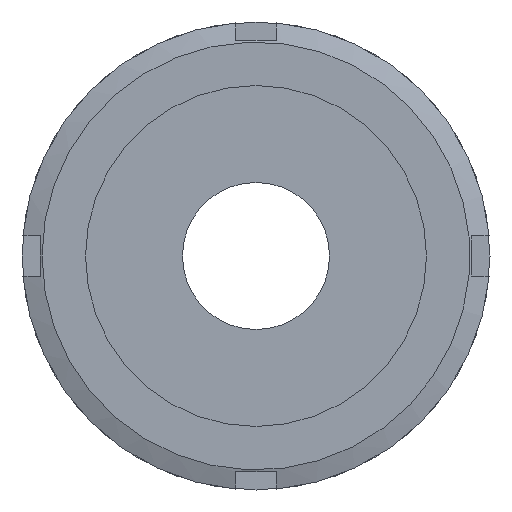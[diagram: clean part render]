
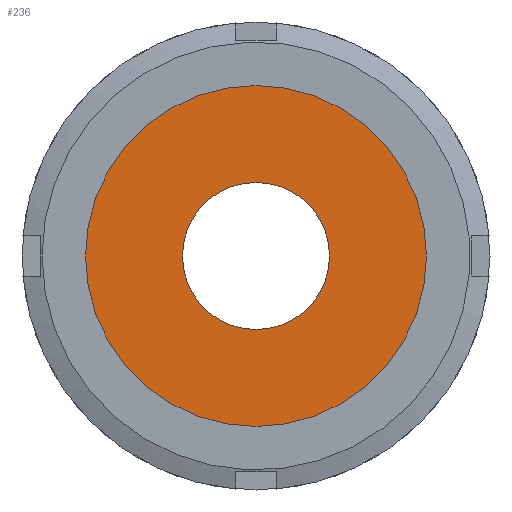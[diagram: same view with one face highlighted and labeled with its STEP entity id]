
A CAD part, left-side view. The second image highlights one B-rep face of the part: STEP entity #236.
In plain terms, the highlighted planar face has unit normal (-1, 0, 0) as drawn and (0, -1, 0) by its records, which use the part's own axes.
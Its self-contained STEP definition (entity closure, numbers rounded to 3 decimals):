
#236 = ADVANCED_FACE( '', ( #342, #343 ), #344, .T. );
#342 = FACE_OUTER_BOUND( '', #497, .T. );
#343 = FACE_BOUND( '', #498, .T. );
#344 = PLANE( '', #499 );
#497 = EDGE_LOOP( '', ( #795 ) );
#498 = EDGE_LOOP( '', ( #796 ) );
#499 = AXIS2_PLACEMENT_3D( '', #797, #798, #799 );
#795 = ORIENTED_EDGE( '', *, *, #1079, .T. );
#796 = ORIENTED_EDGE( '', *, *, #1080, .F. );
#797 = CARTESIAN_POINT( '', ( 11., 0., 0. ) );
#798 = DIRECTION( '', ( 0., -1., 0. ) );
#799 = DIRECTION( '', ( 0., 0., -1. ) );
#1079 = EDGE_CURVE( '', #1252, #1252, #1253, .T. );
#1080 = EDGE_CURVE( '', #1254, #1254, #1255, .T. );
#1252 = VERTEX_POINT( '', #1616 );
#1253 = CIRCLE( '', #1617, 25.5 );
#1254 = VERTEX_POINT( '', #1618 );
#1255 = CIRCLE( '', #1619, 11. );
#1616 = CARTESIAN_POINT( '', ( 0., 0., -25.5 ) );
#1617 = AXIS2_PLACEMENT_3D( '', #1863, #1864, #1865 );
#1618 = CARTESIAN_POINT( '', ( 0., 0., -11. ) );
#1619 = AXIS2_PLACEMENT_3D( '', #1866, #1867, #1868 );
#1863 = CARTESIAN_POINT( '', ( 0., 0., 0. ) );
#1864 = DIRECTION( '', ( 0., -1., 0. ) );
#1865 = DIRECTION( '', ( 0., 0., -1. ) );
#1866 = CARTESIAN_POINT( '', ( 0., 0., 0. ) );
#1867 = DIRECTION( '', ( 0., -1., 0. ) );
#1868 = DIRECTION( '', ( 0., 0., -1. ) );
